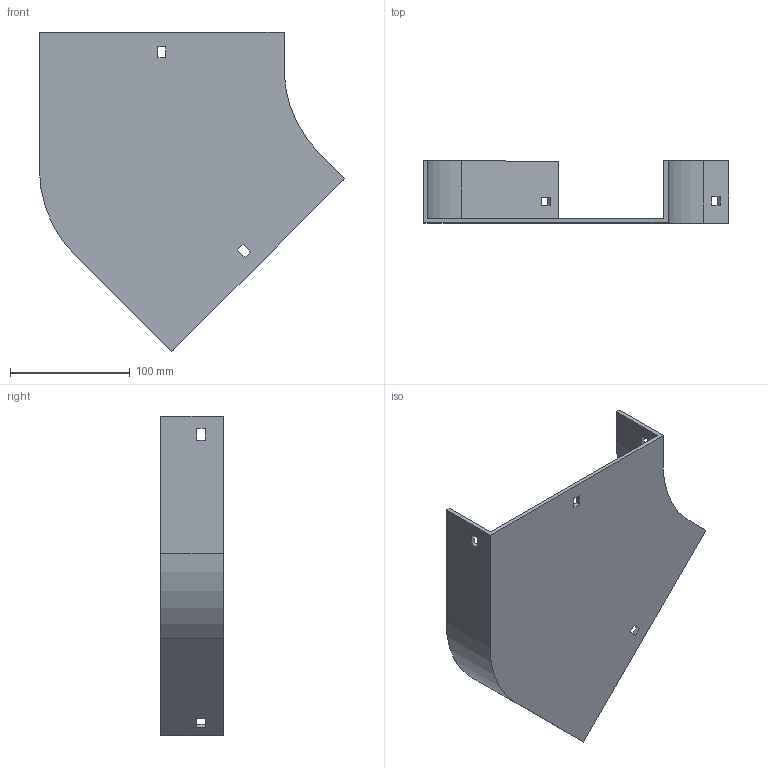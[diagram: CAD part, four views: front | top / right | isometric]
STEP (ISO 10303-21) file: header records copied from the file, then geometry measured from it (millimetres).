
FILE_DESCRIPTION (( 'STEP AP214' ), '1' );
FILE_NAME ('11F1B200.step', '2025-02-21T12:55:35', ( '' ), ( '' ), 'SwSTEP 2.0', 'SolidWorks 2023', '' );
FILE_SCHEMA (( 'AUTOMOTIVE_DESIGN' ));
Length unit declared in the file: millimetre
Products named in the file (1): 11F1B200
Bounding box: 254.5 x 52 x 266.17 mm (x, y, z)
Volume: 236654.8 mm3; surface area: 139592.6 mm2
Topology: 1 solids, 1 shells, 42 faces, 120 edges, 80 vertices
Faces by surface type: plane 38, cylinder 4
Entity records: 1399 total; most frequent: CARTESIAN_POINT 243, ORIENTED_EDGE 240, DIRECTION 214, EDGE_CURVE 120, VECTOR 112, LINE 112, VERTEX_POINT 80, EDGE_LOOP 54
